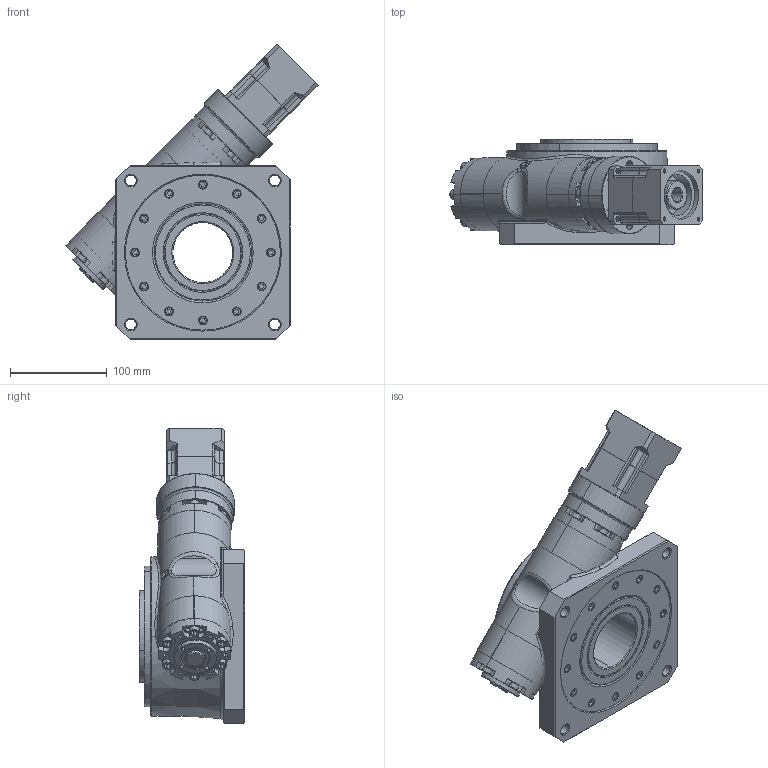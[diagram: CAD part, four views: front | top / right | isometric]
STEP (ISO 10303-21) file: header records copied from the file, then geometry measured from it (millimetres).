
FILE_DESCRIPTION (( 'STEP AP214' ), '1' );
FILE_NAME ('68HP-TAB060.STEP', '2021-11-20T03:02:46', ( 'Windows User' ), ( 'P R C' ), 'SwSTEP 2.0', 'SolidWorks 2020', '' );
FILE_SCHEMA (( 'AUTOMOTIVE_DESIGN' ));
Length unit declared in the file: millimetre
Products named in the file (21): 囀鞠褒M5X25; 蚐黑ZG3%8; 囀鞠褒M6X20; TC80-100-10; HC68HP-01-01眊极; 蚐黑ZG1%8; HC68HP-01-02; 蚐噩M20X1.5; TC20-30-7; HC68HP-01-05綴傷裔; hc68hp-02-01芧謫; HC68HP-01-03粣創囀揤裔; HC68HP-02-04蟀諉楊擘_1; 囀鞠褒M5X15; HC68HP-02-05B; HC68HP-01-04粣創俋揤裔; HC68HP-02-02偏心盖; HC68HP-02-03蹟恇裔; TC95-110-10; 68HP-TAB060; TAB-060-L1-14-50-70-M5 - 準梓堤薯粣14g6
Assembly tree (79 placements, depth 2):
  68HP-TAB060
    HC68HP-01-01眊极
    HC68HP-01-04粣創俋揤裔
    hc68hp-02-01芧謫
    HC68HP-01-05綴傷裔
    TC80-100-10
    TC95-110-10
    TC20-30-7  x2
    HC68HP-01-02
    HC68HP-01-03粣創囀揤裔
    HC68HP-02-03蹟恇裔  x2
    HC68HP-02-04蟀諉楊擘_1
    HC68HP-02-02偏心盖  x2
    囀鞠褒M6X20  x12
    HC68HP-02-05B
    囀鞠褒M5X15  x28
    囀鞠褒M5X25  x18
    蚐噩M20X1.5
    蚐黑ZG1%8  x2
    蚐黑ZG3%8
    TAB-060-L1-14-50-70-M5 - 準梓堤薯粣14g6
Bounding box: 260.01 x 109 x 304.96 mm (x, y, z)
Volume: 4146858.5 mm3; surface area: 590919.3 mm2
Topology: 80 solids, 80 shells, 2379 faces, 5439 edges, 3434 vertices
Faces by surface type: plane 949, cylinder 840, bspline 326, cone 260, torus 4
Entity records: 53839 total; most frequent: CARTESIAN_POINT 16064, DIRECTION 5640, ORIENTED_EDGE 5106, EDGE_CURVE 2553, AXIS2_PLACEMENT_3D 2289, VERTEX_POINT 1650, EDGE_LOOP 1335, CIRCLE 1194
